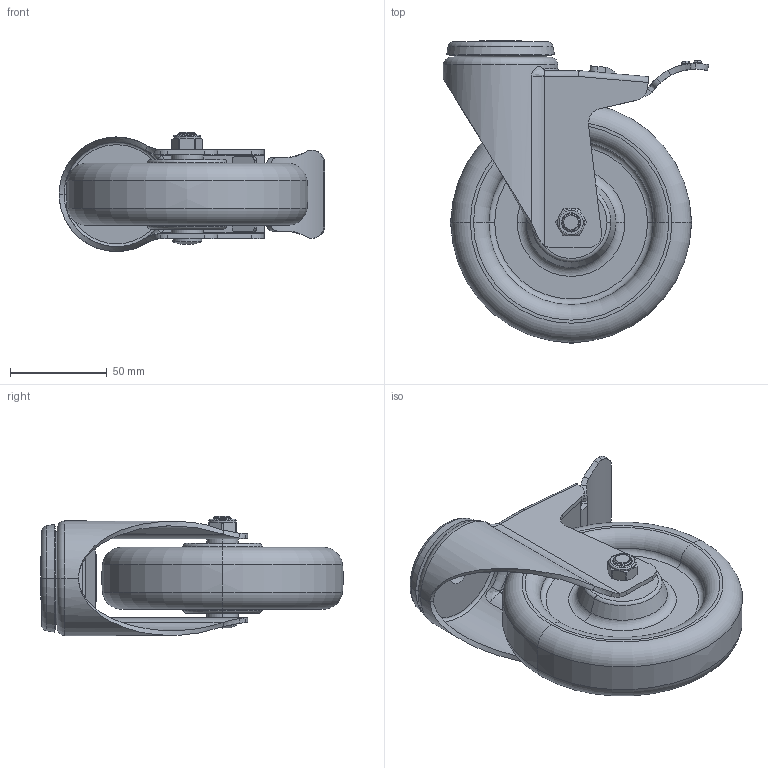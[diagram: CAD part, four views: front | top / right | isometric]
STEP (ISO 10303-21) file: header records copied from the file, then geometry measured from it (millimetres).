
FILE_DESCRIPTION((''),'2;1');
FILE_NAME('50185L-505-86_ASM','2020-01-01T',('L'),(''),'PRO/ENGINEER BY PARAMETRIC TECHNOLOGY CORPORATION, 2010280','PRO/ENGINEER BY PARAMETRIC TECHNOLOGY CORPORATION, 2010280','');
FILE_SCHEMA(('CONFIG_CONTROL_DESIGN'));
Length unit declared in the file: millimetre
Products named in the file (6): 50185; 540-14; 505-986; 570-33; 570-34; 50185L-505-86_ASM
Assembly tree (5 placements, depth 2):
  50185L-505-86_ASM
    50185
    540-14
    505-986
    570-33
    570-34
Bounding box: 137.36 x 156.45 x 61.65 mm (x, y, z)
Volume: 359300.7 mm3; surface area: 85858 mm2
Topology: 9 solids, 9 shells, 310 faces, 726 edges, 443 vertices
Faces by surface type: cylinder 106, plane 85, torus 42, bspline 41, cone 34, sphere 2
Entity records: 14461 total; most frequent: CARTESIAN_POINT 7500, ORIENTED_EDGE 1448, DIRECTION 1382, EDGE_CURVE 724, AXIS2_PLACEMENT_3D 549, VERTEX_POINT 443, EDGE_LOOP 331, FACE_OUTER_BOUND 310
